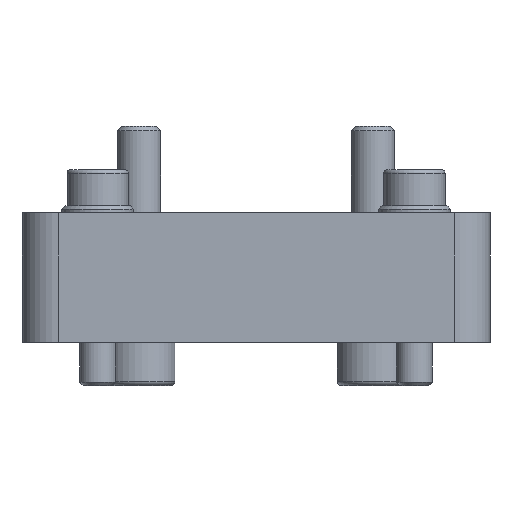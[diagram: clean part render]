
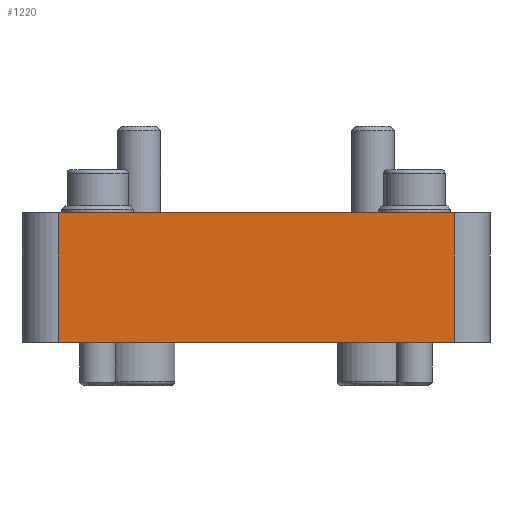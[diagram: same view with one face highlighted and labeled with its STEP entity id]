
A CAD part, front view. The second image highlights one B-rep face of the part: STEP entity #1220.
In plain terms, the highlighted planar face has unit normal (0, -1, 0) as drawn and (1, 0, 0) by its records, which use the part's own axes.
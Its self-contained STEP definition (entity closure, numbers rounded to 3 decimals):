
#128=LINE('',#1910,#188);
#141=LINE('',#2002,#201);
#158=LINE('',#2074,#218);
#159=LINE('',#2076,#219);
#188=VECTOR('',#1514,10.);
#201=VECTOR('',#1595,10.);
#218=VECTOR('',#1692,10.);
#219=VECTOR('',#1695,10.);
#253=PLANE('',#1408);
#398=FACE_OUTER_BOUND('',#511,.T.);
#511=EDGE_LOOP('',(#1045,#1046,#1047,#1048));
#649=VERTEX_POINT('',#1907);
#650=VERTEX_POINT('',#1909);
#694=VERTEX_POINT('',#1999);
#695=VERTEX_POINT('',#2001);
#760=EDGE_CURVE('',#649,#650,#128,.T.);
#805=EDGE_CURVE('',#694,#695,#141,.T.);
#837=EDGE_CURVE('',#695,#649,#158,.T.);
#838=EDGE_CURVE('',#694,#650,#159,.T.);
#1045=ORIENTED_EDGE('',*,*,#837,.F.);
#1046=ORIENTED_EDGE('',*,*,#805,.F.);
#1047=ORIENTED_EDGE('',*,*,#838,.T.);
#1048=ORIENTED_EDGE('',*,*,#760,.F.);
#1220=ADVANCED_FACE('',(#398),#253,.T.);
#1408=AXIS2_PLACEMENT_3D('',#2075,#1693,#1694);
#1514=DIRECTION('',(0.,0.,1.));
#1595=DIRECTION('',(0.,0.,-1.));
#1692=DIRECTION('',(0.,-1.,0.));
#1693=DIRECTION('center_axis',(1.,0.,0.));
#1694=DIRECTION('ref_axis',(0.,0.,-1.));
#1695=DIRECTION('',(0.,-1.,0.));
#1907=CARTESIAN_POINT('',(110.,-9.,-27.5));
#1909=CARTESIAN_POINT('',(110.,-9.,27.5));
#1910=CARTESIAN_POINT('',(110.,-9.,-27.5));
#1999=CARTESIAN_POINT('',(110.,9.,27.5));
#2001=CARTESIAN_POINT('',(110.,9.,-27.5));
#2002=CARTESIAN_POINT('',(110.,9.,-27.5));
#2074=CARTESIAN_POINT('',(110.,0.,-27.5));
#2075=CARTESIAN_POINT('Origin',(110.,0.,27.5));
#2076=CARTESIAN_POINT('',(110.,0.,27.5));
